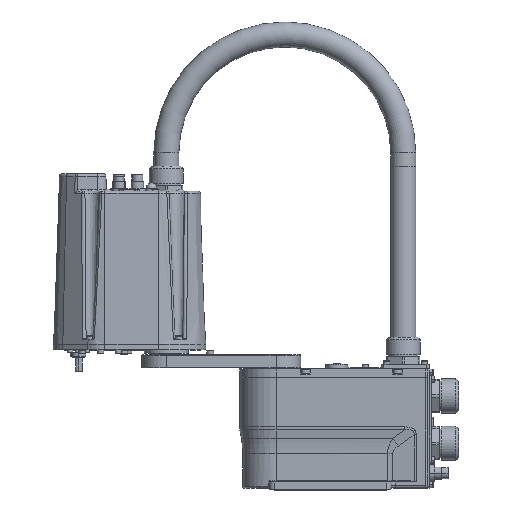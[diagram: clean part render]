
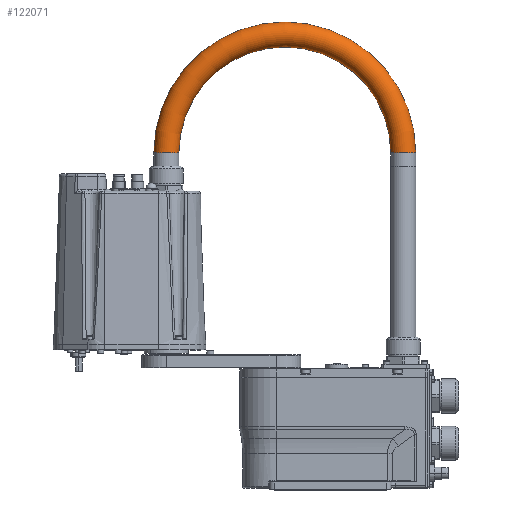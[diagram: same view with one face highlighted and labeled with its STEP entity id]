
A CAD part, top view. The second image highlights one B-rep face of the part: STEP entity #122071.
In plain terms, the highlighted toroidal (fillet/blend) face has major radius 135 mm and minor radius 14.25 mm.
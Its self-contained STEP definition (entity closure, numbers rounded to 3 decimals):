
#121795=CARTESIAN_POINT('',(10.,384.,0.));
#121796=DIRECTION('',(0.,0.,-1.));
#121797=DIRECTION('',(-1.,0.,0.));
#121798=AXIS2_PLACEMENT_3D('',#121795,#121796,#121797);
#121800=CARTESIAN_POINT('',(-125.,384.,0.));
#121801=DIRECTION('',(0.,1.,0.));
#121802=DIRECTION('',(-1.,0.,0.));
#121803=AXIS2_PLACEMENT_3D('',#121800,#121801,#121802);
#121805=CARTESIAN_POINT('',(10.,384.,0.));
#121806=DIRECTION('',(0.,0.,-1.));
#121807=DIRECTION('',(-1.,0.,0.));
#121808=AXIS2_PLACEMENT_3D('',#121805,#121806,#121807);
#121810=CARTESIAN_POINT('',(145.,384.,0.));
#121811=DIRECTION('',(0.,-1.,0.));
#121812=DIRECTION('',(1.,0.,0.));
#121813=AXIS2_PLACEMENT_3D('',#121810,#121811,#121812);
#121938=CARTESIAN_POINT('',(-139.25,384.,0.));
#121939=CARTESIAN_POINT('',(-110.75,384.,0.));
#121940=VERTEX_POINT('',#121938);
#121941=VERTEX_POINT('',#121939);
#121946=CARTESIAN_POINT('',(159.25,384.,0.));
#121947=CARTESIAN_POINT('',(130.75,384.,0.));
#121948=VERTEX_POINT('',#121946);
#121949=VERTEX_POINT('',#121947);
#122059=CARTESIAN_POINT('',(10.,384.,0.));
#122060=DIRECTION('',(0.,0.,-1.));
#122061=DIRECTION('',(1.,0.,0.));
#122062=AXIS2_PLACEMENT_3D('',#122059,#122060,#122061);
#122063=TOROIDAL_SURFACE('',#122062,135.,14.25);
#122064=ORIENTED_EDGE('',*,*,#122003,.F.);
#122065=ORIENTED_EDGE('',*,*,#122047,.T.);
#122067=ORIENTED_EDGE('',*,*,#122066,.T.);
#122068=ORIENTED_EDGE('',*,*,#122043,.F.);
#122069=EDGE_LOOP('',(#122064,#122065,#122067,#122068));
#122070=FACE_OUTER_BOUND('',#122069,.F.);
#122071=ADVANCED_FACE('',(#122070),#122063,.T.);
#121799=CIRCLE('',#121798,120.75);
#121804=CIRCLE('',#121803,14.25);
#121809=CIRCLE('',#121808,149.25);
#121814=CIRCLE('',#121813,14.25);
#122003=EDGE_CURVE('',#121940,#121941,#121804,.T.);
#122043=EDGE_CURVE('',#121941,#121949,#121799,.T.);
#122047=EDGE_CURVE('',#121940,#121948,#121809,.T.);
#122066=EDGE_CURVE('',#121948,#121949,#121814,.T.);
